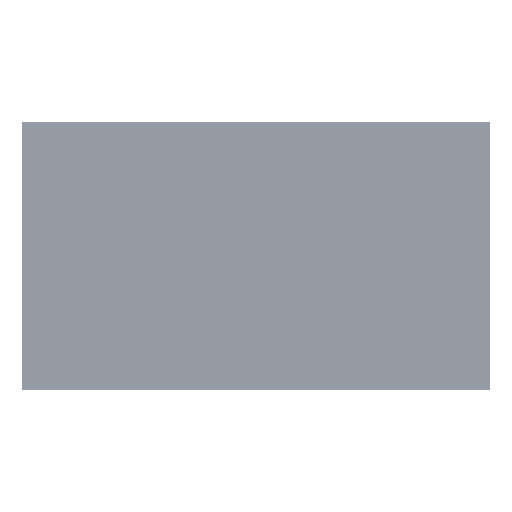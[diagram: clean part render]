
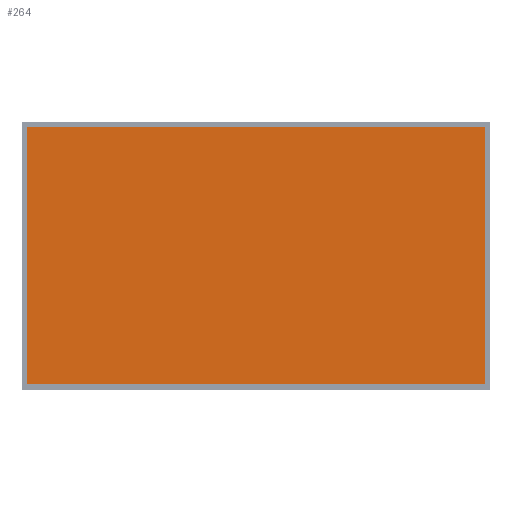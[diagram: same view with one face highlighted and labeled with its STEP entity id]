
A CAD part, top view. The second image highlights one B-rep face of the part: STEP entity #264.
In plain terms, the highlighted planar face has unit normal (0, 0, 1).
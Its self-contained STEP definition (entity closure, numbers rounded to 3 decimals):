
#77=DIRECTION('',(0.,1.,0.));
#78=VECTOR('',#77,803.52);
#79=CARTESIAN_POINT('',(714.24,-401.76,0.625));
#80=LINE('',#79,#78);
#81=DIRECTION('',(-1.,0.,0.));
#82=VECTOR('',#81,1428.48);
#83=CARTESIAN_POINT('',(714.24,401.76,0.625));
#84=LINE('',#83,#82);
#85=DIRECTION('',(0.,-1.,0.));
#86=VECTOR('',#85,803.52);
#87=CARTESIAN_POINT('',(-714.24,401.76,0.625));
#88=LINE('',#87,#86);
#89=DIRECTION('',(1.,0.,0.));
#90=VECTOR('',#89,1428.48);
#91=CARTESIAN_POINT('',(-714.24,-401.76,0.625));
#92=LINE('',#91,#90);
#117=CARTESIAN_POINT('',(714.24,-401.76,0.625));
#118=CARTESIAN_POINT('',(714.24,401.76,0.625));
#119=VERTEX_POINT('',#117);
#120=VERTEX_POINT('',#118);
#121=CARTESIAN_POINT('',(-714.24,401.76,0.625));
#122=VERTEX_POINT('',#121);
#123=CARTESIAN_POINT('',(-714.24,-401.76,0.625));
#124=VERTEX_POINT('',#123);
#253=CARTESIAN_POINT('',(0.,0.,0.575));
#254=DIRECTION('',(0.,0.,1.));
#255=DIRECTION('',(1.,0.,0.));
#256=AXIS2_PLACEMENT_3D('',#253,#254,#255);
#257=PLANE('',#256);
#258=ORIENTED_EDGE('',*,*,#242,.F.);
#259=ORIENTED_EDGE('',*,*,#248,.F.);
#260=ORIENTED_EDGE('',*,*,#246,.F.);
#261=ORIENTED_EDGE('',*,*,#244,.F.);
#262=EDGE_LOOP('',(#258,#259,#260,#261));
#263=FACE_OUTER_BOUND('',#262,.F.);
#264=ADVANCED_FACE('',(#263),#257,.T.);
#242=EDGE_CURVE('',#119,#120,#80,.T.);
#244=EDGE_CURVE('',#120,#122,#84,.T.);
#246=EDGE_CURVE('',#122,#124,#88,.T.);
#248=EDGE_CURVE('',#124,#119,#92,.T.);
